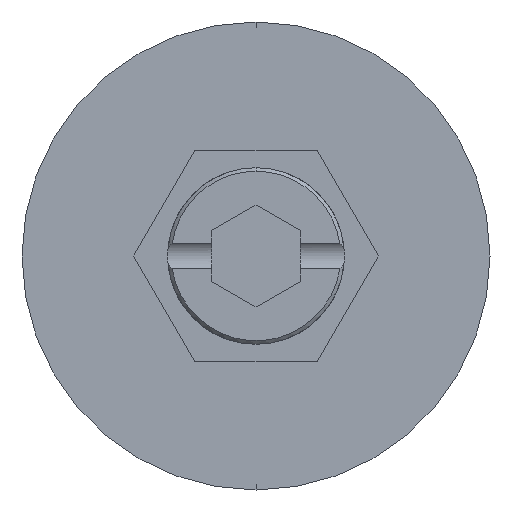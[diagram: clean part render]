
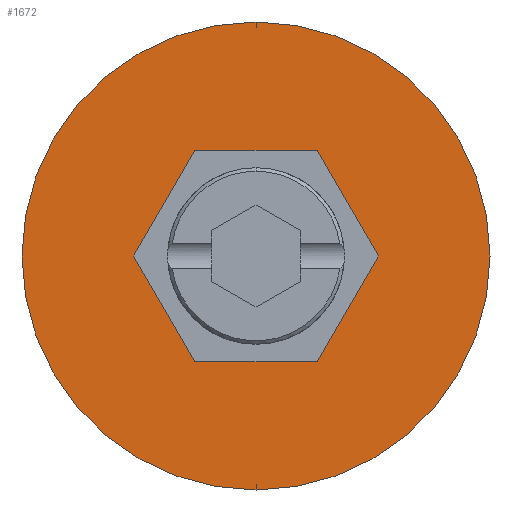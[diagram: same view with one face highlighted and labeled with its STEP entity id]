
A CAD part, front view. The second image highlights one B-rep face of the part: STEP entity #1672.
In plain terms, the highlighted planar face has unit normal (0, -1, 0).
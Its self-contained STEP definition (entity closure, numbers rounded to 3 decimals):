
#2 = AXIS2_PLACEMENT_3D ( 'NONE', #1134, #921, #859 ) ;
#111 = DIRECTION ( 'NONE',  ( 1., 0., 0. ) ) ;
#130 = EDGE_CURVE ( 'NONE', #2817, #854, #2391, .T. ) ;
#161 = CARTESIAN_POINT ( 'NONE',  ( 3.464, 0., -6. ) ) ;
#222 = DIRECTION ( 'NONE',  ( -0.5, 0., -0.866 ) ) ;
#256 = VECTOR ( 'NONE', #421, 1000. ) ;
#258 = VECTOR ( 'NONE', #1482, 1000. ) ;
#269 = CARTESIAN_POINT ( 'NONE',  ( -6.928, 0., 0. ) ) ;
#276 = ORIENTED_EDGE ( 'NONE', *, *, #1193, .F. ) ;
#342 = LINE ( 'NONE', #161, #256 ) ;
#357 = LINE ( 'NONE', #269, #858 ) ;
#362 = VERTEX_POINT ( 'NONE', #815 ) ;
#368 = DIRECTION ( 'NONE',  ( -0.5, 0., 0.866 ) ) ;
#371 = ORIENTED_EDGE ( 'NONE', *, *, #130, .F. ) ;
#394 = VECTOR ( 'NONE', #222, 1000. ) ;
#421 = DIRECTION ( 'NONE',  ( 0.5, 0., 0.866 ) ) ;
#458 = FACE_OUTER_BOUND ( 'NONE', #2797, .T. ) ;
#712 = CARTESIAN_POINT ( 'NONE',  ( -6.928, 0., 0. ) ) ;
#798 = VERTEX_POINT ( 'NONE', #1190 ) ;
#815 = CARTESIAN_POINT ( 'NONE',  ( 6.928, 0., 0. ) ) ;
#854 = VERTEX_POINT ( 'NONE', #712 ) ;
#858 = VECTOR ( 'NONE', #2510, 1000. ) ;
#859 = DIRECTION ( 'NONE',  ( 0., 0., -1. ) ) ;
#921 = DIRECTION ( 'NONE',  ( 0., -1., 0. ) ) ;
#937 = LINE ( 'NONE', #2988, #258 ) ;
#1101 = CARTESIAN_POINT ( 'NONE',  ( -3.464, 0., -6. ) ) ;
#1114 = EDGE_CURVE ( 'NONE', #1839, #2479, #1312, .T. ) ;
#1134 = CARTESIAN_POINT ( 'NONE',  ( 0., 0., 0. ) ) ;
#1142 = DIRECTION ( 'NONE',  ( 0., -1., 0. ) ) ;
#1174 = ORIENTED_EDGE ( 'NONE', *, *, #1114, .T. ) ;
#1187 = EDGE_CURVE ( 'NONE', #362, #3080, #3236, .T. ) ;
#1190 = CARTESIAN_POINT ( 'NONE',  ( 3.464, 0., -6. ) ) ;
#1193 = EDGE_CURVE ( 'NONE', #2751, #798, #1916, .T. ) ;
#1217 = CARTESIAN_POINT ( 'NONE',  ( 0., 0., -13.25 ) ) ;
#1233 = VECTOR ( 'NONE', #368, 1000. ) ;
#1312 = CIRCLE ( 'NONE', #2, 13.25 ) ;
#1353 = EDGE_CURVE ( 'NONE', #854, #2751, #357, .T. ) ;
#1482 = DIRECTION ( 'NONE',  ( -1., 0., 0. ) ) ;
#1572 = DIRECTION ( 'NONE',  ( 0., 0., -1. ) ) ;
#1589 = CARTESIAN_POINT ( 'NONE',  ( 0., 0., 13.25 ) ) ;
#1627 = AXIS2_PLACEMENT_3D ( 'NONE', #2637, #1142, #2877 ) ;
#1672 = ADVANCED_FACE ( 'NONE', ( #1750, #458 ), #2096, .T. ) ;
#1705 = EDGE_LOOP ( 'NONE', ( #276, #3098, #371, #2511, #2935, #1745 ) ) ;
#1745 = ORIENTED_EDGE ( 'NONE', *, *, #3198, .F. ) ;
#1750 = FACE_BOUND ( 'NONE', #1705, .T. ) ;
#1826 = ORIENTED_EDGE ( 'NONE', *, *, #2208, .T. ) ;
#1839 = VERTEX_POINT ( 'NONE', #1589 ) ;
#1847 = CARTESIAN_POINT ( 'NONE',  ( 6.928, 0., 0. ) ) ;
#1863 = AXIS2_PLACEMENT_3D ( 'NONE', #2592, #3088, #1572 ) ;
#1916 = LINE ( 'NONE', #1101, #2499 ) ;
#2096 = PLANE ( 'NONE',  #1863 ) ;
#2155 = CIRCLE ( 'NONE', #1627, 13.25 ) ;
#2208 = EDGE_CURVE ( 'NONE', #2479, #1839, #2155, .T. ) ;
#2286 = CARTESIAN_POINT ( 'NONE',  ( -3.464, 0., 6. ) ) ;
#2391 = LINE ( 'NONE', #2474, #394 ) ;
#2474 = CARTESIAN_POINT ( 'NONE',  ( -3.464, 0., 6. ) ) ;
#2479 = VERTEX_POINT ( 'NONE', #1217 ) ;
#2499 = VECTOR ( 'NONE', #111, 1000. ) ;
#2510 = DIRECTION ( 'NONE',  ( 0.5, 0., -0.866 ) ) ;
#2511 = ORIENTED_EDGE ( 'NONE', *, *, #2594, .F. ) ;
#2521 = CARTESIAN_POINT ( 'NONE',  ( -3.464, 0., -6. ) ) ;
#2592 = CARTESIAN_POINT ( 'NONE',  ( 0., 0., 0. ) ) ;
#2594 = EDGE_CURVE ( 'NONE', #3080, #2817, #937, .T. ) ;
#2637 = CARTESIAN_POINT ( 'NONE',  ( 0., 0., 0. ) ) ;
#2693 = CARTESIAN_POINT ( 'NONE',  ( 3.464, 0., 6. ) ) ;
#2751 = VERTEX_POINT ( 'NONE', #2521 ) ;
#2797 = EDGE_LOOP ( 'NONE', ( #1826, #1174 ) ) ;
#2817 = VERTEX_POINT ( 'NONE', #2286 ) ;
#2877 = DIRECTION ( 'NONE',  ( 0., 0., -1. ) ) ;
#2935 = ORIENTED_EDGE ( 'NONE', *, *, #1187, .F. ) ;
#2988 = CARTESIAN_POINT ( 'NONE',  ( 3.464, 0., 6. ) ) ;
#3080 = VERTEX_POINT ( 'NONE', #2693 ) ;
#3088 = DIRECTION ( 'NONE',  ( 0., -1., 0. ) ) ;
#3098 = ORIENTED_EDGE ( 'NONE', *, *, #1353, .F. ) ;
#3198 = EDGE_CURVE ( 'NONE', #798, #362, #342, .T. ) ;
#3236 = LINE ( 'NONE', #1847, #1233 ) ;
